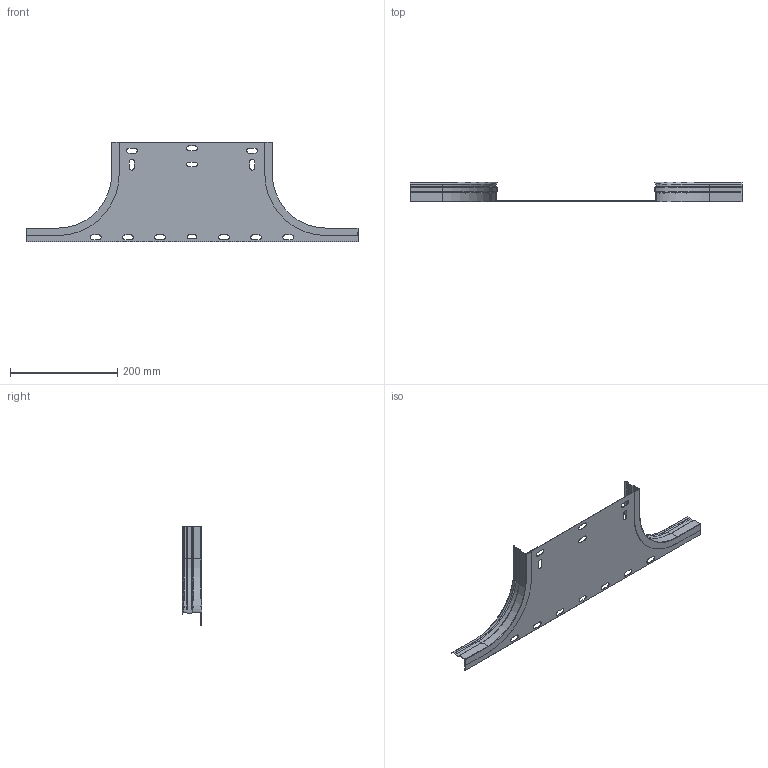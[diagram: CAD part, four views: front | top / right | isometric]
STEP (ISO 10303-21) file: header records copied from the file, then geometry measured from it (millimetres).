
FILE_DESCRIPTION (( 'STEP AP203' ), '1' );
FILE_NAME ('ERE_AS 300x35.step', '2023-07-27T18:49:58', ( '' ), ( '' ), 'SwSTEP 2.0', 'SolidWorks 2022', '' );
FILE_SCHEMA (( 'CONFIG_CONTROL_DESIGN' ));
Length unit declared in the file: millimetre
Products named in the file (3): ERE_BASE AS_300; ERE_LATERAL AS_35; ERE_AS 300x35
Assembly tree (3 placements, depth 2):
  ERE_AS 300x35
    ERE_BASE AS_300
    ERE_LATERAL AS_35  x2
Bounding box: 620 x 37 x 185.5 mm (x, y, z)
Volume: 81974.1 mm3; surface area: 193211.9 mm2
Topology: 3 solids, 3 shells, 158 faces, 408 edges, 256 vertices
Faces by surface type: plane 100, cylinder 44, cone 14
Entity records: 3857 total; most frequent: DIRECTION 612, CARTESIAN_POINT 610, ORIENTED_EDGE 600, EDGE_CURVE 300, VECTOR 224, LINE 224, AXIS2_PLACEMENT_3D 194, VERTEX_POINT 192
